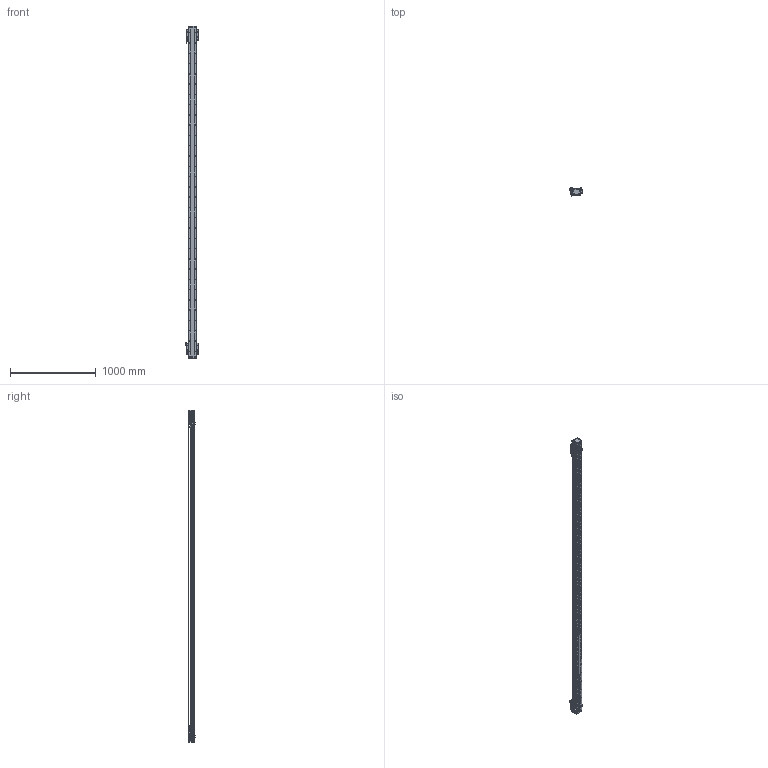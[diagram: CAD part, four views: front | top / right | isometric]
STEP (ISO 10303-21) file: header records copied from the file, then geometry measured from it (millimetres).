
FILE_DESCRIPTION (( 'STEP AP203' ), '1' );
FILE_NAME ('DA-B95-2-B15-T3500-C010-0.2 直线电机.STEP', '2023-05-06T06:49:58', ( '微软用户' ), ( '微软中国' ), 'SwSTEP 2.0', 'SolidWorks 2019', '' );
FILE_SCHEMA (( 'CONFIG_CONTROL_DESIGN' ));
Length unit declared in the file: millimetre
Products named in the file (34): PM-T45 光电开关^DA-A95-B15-T-C010-0.2-N 直线电机; 复件 66245-BU95-HT-V-01 滑动台板^66245-BU95-V-00 一体化滑动台板; IU-BU95-L-00 菁釱_L3840; 复件 DKW-GYP-ZJ-00 中间光电感应片^DA-A95-B15-T-C010-0.2-N 直线电机; 葩璃 BKM015-W060-C1-TP-DA-0.2^DA-A95-B15-T-C010-0.2-N 眻盄萇儂; DA-A95-GYP-00 光电感应片^DA-A95-B15-T-C010-0.2-N 直线电机; 复件 复件 18252-0001-003-00 钢带拉块^DA-A95-B15-T-C010-0.2-N 直线电机; DA-B95-2-B15-T3500-C010-0.2 眻盄萇儂; 复件 DA95-B15-YB-A-00 压板A^66245-BU95-V 滚珠滑台; 66245-BU95-V-00 珨极趙賑雄怢啣; 66245-BU95-V 幗紩賑怢; LMDK-2-R001-V5-L02-C1-F00，0.2M 读数头^DA-A95-B15-T-C010-0.2-N 直线电机_DMA-010-0.2; 葩璃 BKMA01-W060-TRL^DA-A95-B15-T-C010-0.2-N 眻盄萇儂; 复件 纯铜油杯 6x6mm^66245-BU95-V 滚珠滑台; B15 XD-U-02L ｴﾅﾕ､ｳﾟ^DA-A95-B15-T-C010-0.2-N ﾖｱﾏﾟｵ扈銈XD-U-02L; 复件 DA95-B15-YB-B-00 压板B^66245-BU95-V 滚珠滑台; 葩璃 DA95-GT-T-00^IU-BU95-L 菁釱絳寢_DA95; 复件 DA95-DK-00 挡块^66245-BU95-V 滚珠滑台; DA95-HXJ-00 缓冲橡胶^DA-A95-B15-T-C010-0.2-N 直线电机; 复件 DA95-HK-GT-00 滑块钢轨^66245-BU95-V-00 一体化滑动台板; 葩璃 PM-Y45^DA-A95-B15-T-C010-0.2-N 眻盄萇儂; 复件 复件 18252-0001-002-00 钢带垫块^DA-A95-B15-T-C010-0.2-N 直线电机; 复件 DKW-KGZ-ZJ-00 中间光电开关支架^DA-A95-B15-T-C010-0.2-N 直线电机; 复件 DKW-HXJ-JY-00 缓冲橡胶^DA-A95-B15-T-C010-0.2-N 直线电机; IU-BU95-L 菁釱絳寢; 葩璃 DA95-B15-DP-A-00 菜えA^66245-BU95-V 幗紩賑怢; 复件 DA95-MFP-01 密封片^66245-BU95-V 滚珠滑台; 复件 复件 18252-0001-004-00 钢带端盖^DA-A95-B15-T-C010-0.2-N 直线电机; 复件 DA95-DB-00  挡板^66245-BU95-V 滚珠滑台; 葩璃 DA95-B15-DP--B-00 菜えB^66245-BU95-V 幗紩賑怢; 复件 DA95-B15 钢带盖板^DA-A95-B15-T-C010-0.2-N 直线电机; 复件 六角薄螺母 M3^DA-A95-B15-T-C010-0.2-N 直线电机_GB_FASTENER_NUT_STNAB M3-C
Assembly tree (80 placements, depth 4):
  DA-B95-2-B15-T3500-C010-0.2 眻盄萇儂
    IU-BU95-L 菁釱絳寢
      IU-BU95-L-00 菁釱_L3840
      葩璃 DA95-GT-T-00^IU-BU95-L 菁釱絳寢_DA95  x2
    66245-BU95-V 幗紩賑怢
      66245-BU95-V-00 珨极趙賑雄怢啣
        复件 66245-BU95-HT-V-01 滑动台板^66245-BU95-V-00 一体化滑动台板
        复件 DA95-HK-GT-00 滑块钢轨^66245-BU95-V-00 一体化滑动台板  x2
      葩璃 DA95-B15-DP-A-00 菜えA^66245-BU95-V 幗紩賑怢
      复件 DA95-B15-YB-A-00 压板A^66245-BU95-V 滚珠滑台
      复件 DA95-B15-YB-B-00 压板B^66245-BU95-V 滚珠滑台
      复件 DA95-DB-00  挡板^66245-BU95-V 滚珠滑台  x4
      复件 DA95-DK-00 挡块^66245-BU95-V 滚珠滑台  x2
      复件 DA95-MFP-01 密封片^66245-BU95-V 滚珠滑台  x4
      复件 纯铜油杯 6x6mm^66245-BU95-V 滚珠滑台  x2
      葩璃 DA95-B15-DP--B-00 菜えB^66245-BU95-V 幗紩賑怢
    66245-BU95-V 幗紩賑怢
      66245-BU95-V-00 珨极趙賑雄怢啣
        复件 66245-BU95-HT-V-01 滑动台板^66245-BU95-V-00 一体化滑动台板
        复件 DA95-HK-GT-00 滑块钢轨^66245-BU95-V-00 一体化滑动台板  x2
      葩璃 DA95-B15-DP-A-00 菜えA^66245-BU95-V 幗紩賑怢
      复件 DA95-B15-YB-A-00 压板A^66245-BU95-V 滚珠滑台
      复件 DA95-B15-YB-B-00 压板B^66245-BU95-V 滚珠滑台
      复件 DA95-DB-00  挡板^66245-BU95-V 滚珠滑台  x4
      复件 DA95-DK-00 挡块^66245-BU95-V 滚珠滑台  x2
      复件 DA95-MFP-01 密封片^66245-BU95-V 滚珠滑台  x4
      复件 纯铜油杯 6x6mm^66245-BU95-V 滚珠滑台  x2
      葩璃 DA95-B15-DP--B-00 菜えB^66245-BU95-V 幗紩賑怢
    DA-A95-GYP-00 光电感应片^DA-A95-B15-T-C010-0.2-N 直线电机  x2
    LMDK-2-R001-V5-L02-C1-F00，0.2M 读数头^DA-A95-B15-T-C010-0.2-N 直线电机_DMA-010-0.2  x2
    复件 DKW-KGZ-ZJ-00 中间光电开关支架^DA-A95-B15-T-C010-0.2-N 直线电机
    葩璃 PM-Y45^DA-A95-B15-T-C010-0.2-N 眻盄萇儂
    复件 DKW-GYP-ZJ-00 中间光电感应片^DA-A95-B15-T-C010-0.2-N 直线电机
    葩璃 BKM015-W060-C1-TP-DA-0.2^DA-A95-B15-T-C010-0.2-N 眻盄萇儂  x2
    复件 DKW-HXJ-JY-00 缓冲橡胶^DA-A95-B15-T-C010-0.2-N 直线电机  x2
    PM-T45 光电开关^DA-A95-B15-T-C010-0.2-N 直线电机  x4
    B15 XD-U-02L ｴﾅﾕ､ｳﾟ^DA-A95-B15-T-C010-0.2-N ﾖｱﾏﾟｵ扈銈XD-U-02L
    复件 复件 18252-0001-003-00 钢带拉块^DA-A95-B15-T-C010-0.2-N 直线电机  x2
    复件 复件 18252-0001-002-00 钢带垫块^DA-A95-B15-T-C010-0.2-N 直线电机  x2
    复件 复件 18252-0001-004-00 钢带端盖^DA-A95-B15-T-C010-0.2-N 直线电机  x2
    复件 DA95-B15 钢带盖板^DA-A95-B15-T-C010-0.2-N 直线电机
    DA95-HXJ-00 缓冲橡胶^DA-A95-B15-T-C010-0.2-N 直线电机  x4
    葩璃 BKMA01-W060-TRL^DA-A95-B15-T-C010-0.2-N 眻盄萇儂
    复件 六角薄螺母 M3^DA-A95-B15-T-C010-0.2-N 直线电机_GB_FASTENER_NUT_STNAB M3-C  x6
Bounding box: 145.4 x 90.2 x 3876 mm (x, y, z)
Volume: 11933158.6 mm3; surface area: 4007742.6 mm2
Topology: 75 solids, 93 shells, 4776 faces, 13948 edges, 8911 vertices
Faces by surface type: cylinder 2597, plane 1647, cone 464, torus 64, sphere 4
Entity records: 129490 total; most frequent: CARTESIAN_POINT 36248, ORIENTED_EDGE 19254, DIRECTION 18102, EDGE_CURVE 9627, AXIS2_PLACEMENT_3D 6949, VERTEX_POINT 6313, VECTOR 4204, LINE 4204
